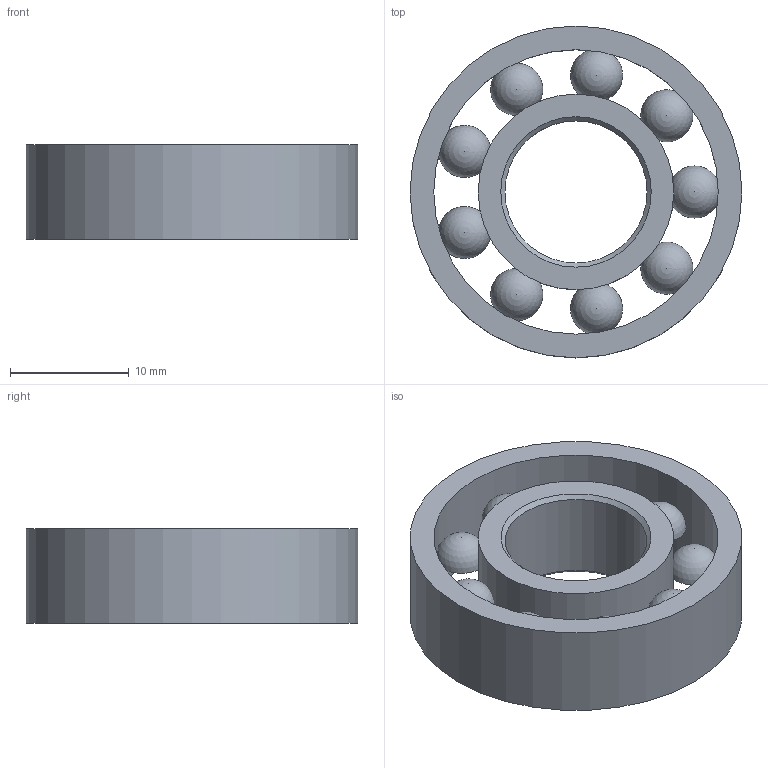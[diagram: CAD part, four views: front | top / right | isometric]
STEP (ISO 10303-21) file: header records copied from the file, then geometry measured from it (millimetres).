
FILE_DESCRIPTION(('Open CASCADE Model'),'2;1');
FILE_NAME('Open CASCADE Shape Model','2026-09-23T04:43:19',('Author'),( 'Open CASCADE'),'Open CASCADE STEP processor 7.9','Open CASCADE 7.9' ,'Unknown');
FILE_SCHEMA(('AUTOMOTIVE_DESIGN { 1 0 10303 214 1 1 1 1 }'));
Length unit declared in the file: millimetre
Products named in the file (12): Open CASCADE STEP translator 7.9 3; Open CASCADE STEP translator 7.9 3.1; Open CASCADE STEP translator 7.9 3.2; Open CASCADE STEP translator 7.9 3.3; Open CASCADE STEP translator 7.9 3.4; Open CASCADE STEP translator 7.9 3.5; Open CASCADE STEP translator 7.9 3.6; Open CASCADE STEP translator 7.9 3.7; Open CASCADE STEP translator 7.9 3.8; Open CASCADE STEP translator 7.9 3.9; Open CASCADE STEP translator 7.9 3.10; Open CASCADE STEP translator 7.9 3.11
Assembly tree (11 placements, depth 2):
  Open CASCADE STEP translator 7.9 3
    Open CASCADE STEP translator 7.9 3.1
    Open CASCADE STEP translator 7.9 3.2
    Open CASCADE STEP translator 7.9 3.3
    Open CASCADE STEP translator 7.9 3.4
    Open CASCADE STEP translator 7.9 3.5
    Open CASCADE STEP translator 7.9 3.6
    Open CASCADE STEP translator 7.9 3.7
    Open CASCADE STEP translator 7.9 3.8
    Open CASCADE STEP translator 7.9 3.9
    Open CASCADE STEP translator 7.9 3.10
    Open CASCADE STEP translator 7.9 3.11
Bounding box: 28 x 28 x 8 mm (x, y, z)
Volume: 2308.7 mm3; surface area: 2946.8 mm2
Topology: 11 solids, 11 shells, 28 faces, 43 edges, 28 vertices
Faces by surface type: plane 13, sphere 9, cylinder 4, cone 2
Full cylindrical faces by diameter (mm): 12 x1, 16.5 x1, 24 x1, 28 x1
Entity records: 1228 total; most frequent: DIRECTION 206, CARTESIAN_POINT 174, AXIS2_PLACEMENT_3D 68, ORIENTED_EDGE 68, PCURVE 68, DEFINITIONAL_REPRESENTATION 68, LINE 53, VECTOR 53
